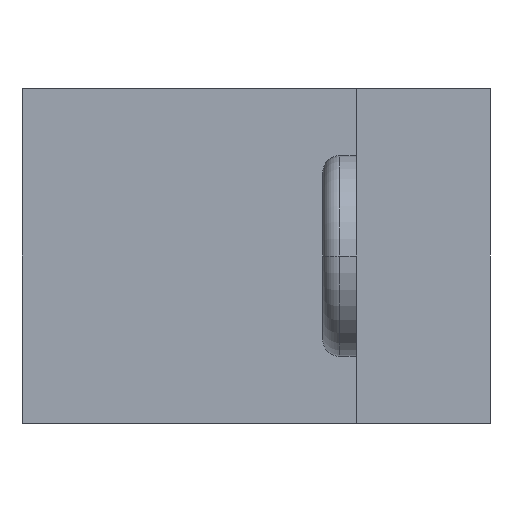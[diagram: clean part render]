
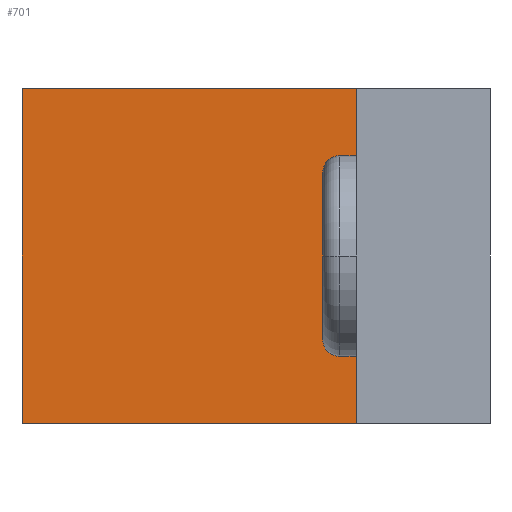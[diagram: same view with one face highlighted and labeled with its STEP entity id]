
A CAD part, left-side view. The second image highlights one B-rep face of the part: STEP entity #701.
In plain terms, the highlighted planar face has unit normal (-1, 0, 0).
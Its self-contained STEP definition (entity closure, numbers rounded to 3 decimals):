
#9 = DIRECTION ( 'NONE',  ( 0., 0., -1. ) ) ;
#94 = CARTESIAN_POINT ( 'NONE',  ( -15., 14., 5. ) ) ;
#179 = VECTOR ( 'NONE', #200, 1000. ) ;
#191 = ORIENTED_EDGE ( 'NONE', *, *, #405, .T. ) ;
#200 = DIRECTION ( 'NONE',  ( 0., -1., 0. ) ) ;
#203 = LINE ( 'NONE', #722, #179 ) ;
#243 = ORIENTED_EDGE ( 'NONE', *, *, #885, .F. ) ;
#252 = CARTESIAN_POINT ( 'NONE',  ( -15., 14., -5. ) ) ;
#299 = LINE ( 'NONE', #668, #351 ) ;
#307 = CARTESIAN_POINT ( 'NONE',  ( -15., 4., -5. ) ) ;
#351 = VECTOR ( 'NONE', #657, 1000. ) ;
#365 = CARTESIAN_POINT ( 'NONE',  ( -15., 4., -5. ) ) ;
#404 = CARTESIAN_POINT ( 'NONE',  ( -15., 4., 5. ) ) ;
#405 = EDGE_CURVE ( 'NONE', #539, #565, #299, .T. ) ;
#423 = FACE_OUTER_BOUND ( 'NONE', #873, .T. ) ;
#432 = DIRECTION ( 'NONE',  ( 0., -1., 0. ) ) ;
#436 = AXIS2_PLACEMENT_3D ( 'NONE', #676, #788, #798 ) ;
#501 = EDGE_CURVE ( 'NONE', #635, #783, #866, .T. ) ;
#539 = VERTEX_POINT ( 'NONE', #94 ) ;
#565 = VERTEX_POINT ( 'NONE', #252 ) ;
#611 = EDGE_CURVE ( 'NONE', #565, #783, #777, .T. ) ;
#635 = VERTEX_POINT ( 'NONE', #404 ) ;
#657 = DIRECTION ( 'NONE',  ( 0., 0., -1. ) ) ;
#668 = CARTESIAN_POINT ( 'NONE',  ( -15., 14., 5. ) ) ;
#676 = CARTESIAN_POINT ( 'NONE',  ( -15., 4., 5. ) ) ;
#692 = VECTOR ( 'NONE', #432, 1000. ) ;
#698 = PLANE ( 'NONE',  #436 ) ;
#701 = ADVANCED_FACE ( 'NONE', ( #423 ), #698, .F. ) ;
#722 = CARTESIAN_POINT ( 'NONE',  ( -15., 4., 5. ) ) ;
#733 = VECTOR ( 'NONE', #9, 1000. ) ;
#777 = LINE ( 'NONE', #365, #692 ) ;
#783 = VERTEX_POINT ( 'NONE', #307 ) ;
#788 = DIRECTION ( 'NONE',  ( 1., 0., 0. ) ) ;
#798 = DIRECTION ( 'NONE',  ( 0., 0., -1. ) ) ;
#833 = ORIENTED_EDGE ( 'NONE', *, *, #611, .T. ) ;
#858 = CARTESIAN_POINT ( 'NONE',  ( -15., 4., 5. ) ) ;
#861 = ORIENTED_EDGE ( 'NONE', *, *, #501, .F. ) ;
#866 = LINE ( 'NONE', #858, #733 ) ;
#873 = EDGE_LOOP ( 'NONE', ( #833, #861, #243, #191 ) ) ;
#885 = EDGE_CURVE ( 'NONE', #539, #635, #203, .T. ) ;
